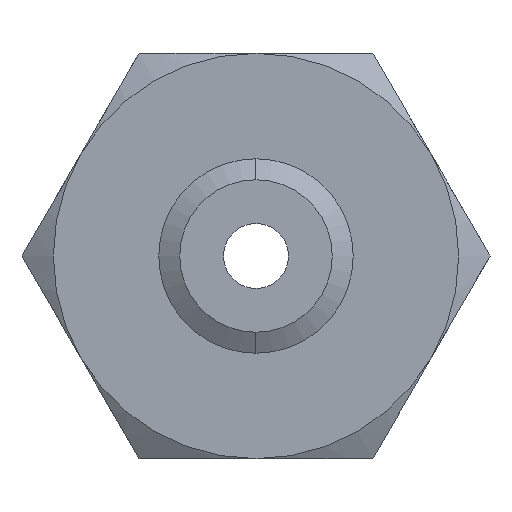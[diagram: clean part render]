
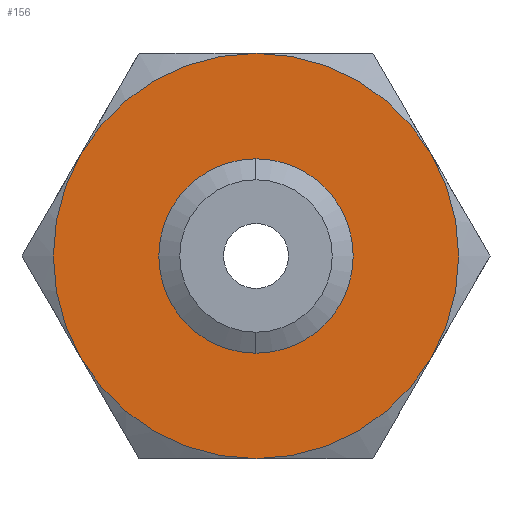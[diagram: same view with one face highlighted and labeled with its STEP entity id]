
A CAD part, front view. The second image highlights one B-rep face of the part: STEP entity #156.
In plain terms, the highlighted planar face has unit normal (0, -1, 0).
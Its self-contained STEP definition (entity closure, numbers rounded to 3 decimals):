
#156 = ADVANCED_FACE ( 'NONE', ( #1119, #1118 ), #1117, .F. ) ;
#157 = EDGE_LOOP ( 'NONE', ( #168, #172, #175, #178, #181, #192 ) ) ;
#168 = ORIENTED_EDGE ( 'NONE', *, *, #169, .F. ) ;
#169 = EDGE_CURVE ( 'NONE', #170, #171, #1096, .T. ) ;
#170 = VERTEX_POINT ( 'NONE', #1097 ) ;
#171 = VERTEX_POINT ( 'NONE', #1091 ) ;
#172 = ORIENTED_EDGE ( 'NONE', *, *, #173, .F. ) ;
#173 = EDGE_CURVE ( 'NONE', #174, #170, #1153, .T. ) ;
#174 = VERTEX_POINT ( 'NONE', #1090 ) ;
#175 = ORIENTED_EDGE ( 'NONE', *, *, #176, .F. ) ;
#176 = EDGE_CURVE ( 'NONE', #177, #174, #1148, .T. ) ;
#177 = VERTEX_POINT ( 'NONE', #1143 ) ;
#178 = ORIENTED_EDGE ( 'NONE', *, *, #179, .F. ) ;
#179 = EDGE_CURVE ( 'NONE', #180, #177, #1142, .T. ) ;
#180 = VERTEX_POINT ( 'NONE', #1137 ) ;
#181 = ORIENTED_EDGE ( 'NONE', *, *, #191, .F. ) ;
#182 = VERTEX_POINT ( 'NONE', #1136 ) ;
#191 = EDGE_CURVE ( 'NONE', #182, #180, #1120, .T. ) ;
#192 = ORIENTED_EDGE ( 'NONE', *, *, #193, .F. ) ;
#193 = EDGE_CURVE ( 'NONE', #171, #182, #1179, .T. ) ;
#194 = EDGE_LOOP ( 'NONE', ( #195, #196 ) ) ;
#195 = ORIENTED_EDGE ( 'NONE', *, *, #2037, .F. ) ;
#196 = ORIENTED_EDGE ( 'NONE', *, *, #197, .F. ) ;
#197 = EDGE_CURVE ( 'NONE', #2039, #2038, #1175, .T. ) ;
#1090 = CARTESIAN_POINT ( 'NONE',  ( -21.651, 0., 12.5 ) ) ;
#1091 = CARTESIAN_POINT ( 'NONE',  ( 21.651, 0., 12.5 ) ) ;
#1092 = DIRECTION ( 'NONE',  ( 0., 0., 1. ) ) ;
#1093 = DIRECTION ( 'NONE',  ( 0., 1., 0. ) ) ;
#1094 = CARTESIAN_POINT ( 'NONE',  ( 0., 0., 0. ) ) ;
#1095 = AXIS2_PLACEMENT_3D ( 'NONE', #1094, #1093, #1092 ) ;
#1096 = CIRCLE ( 'NONE', #1095, 25. ) ;
#1097 = CARTESIAN_POINT ( 'NONE',  ( 0., 0., 25. ) ) ;
#1113 = DIRECTION ( 'NONE',  ( 0., 0., 1. ) ) ;
#1114 = DIRECTION ( 'NONE',  ( 0., 1., 0. ) ) ;
#1115 = CARTESIAN_POINT ( 'NONE',  ( 14.434, 0., -25. ) ) ;
#1116 = AXIS2_PLACEMENT_3D ( 'NONE', #1115, #1114, #1113 ) ;
#1117 = PLANE ( 'NONE',  #1116 ) ;
#1118 = FACE_BOUND ( 'NONE', #194, .T. ) ;
#1119 = FACE_OUTER_BOUND ( 'NONE', #157, .T. ) ;
#1120 = CIRCLE ( 'NONE', #1126, 25. ) ;
#1126 = AXIS2_PLACEMENT_3D ( 'NONE', #1182, #1181, #1180 ) ;
#1136 = CARTESIAN_POINT ( 'NONE',  ( 21.651, 0., -12.5 ) ) ;
#1137 = CARTESIAN_POINT ( 'NONE',  ( 0., 0., -25. ) ) ;
#1138 = DIRECTION ( 'NONE',  ( 0., 0., 1. ) ) ;
#1139 = DIRECTION ( 'NONE',  ( 0., 1., 0. ) ) ;
#1140 = CARTESIAN_POINT ( 'NONE',  ( 0., 0., 0. ) ) ;
#1141 = AXIS2_PLACEMENT_3D ( 'NONE', #1140, #1139, #1138 ) ;
#1142 = CIRCLE ( 'NONE', #1141, 25. ) ;
#1143 = CARTESIAN_POINT ( 'NONE',  ( -21.651, 0., -12.5 ) ) ;
#1144 = DIRECTION ( 'NONE',  ( 0., 0., 1. ) ) ;
#1145 = DIRECTION ( 'NONE',  ( 0., 1., 0. ) ) ;
#1146 = CARTESIAN_POINT ( 'NONE',  ( 0., 0., 0. ) ) ;
#1147 = AXIS2_PLACEMENT_3D ( 'NONE', #1146, #1145, #1144 ) ;
#1148 = CIRCLE ( 'NONE', #1147, 25. ) ;
#1149 = DIRECTION ( 'NONE',  ( 0., 0., 1. ) ) ;
#1150 = DIRECTION ( 'NONE',  ( 0., 1., 0. ) ) ;
#1151 = CARTESIAN_POINT ( 'NONE',  ( 0., 0., 0. ) ) ;
#1152 = AXIS2_PLACEMENT_3D ( 'NONE', #1151, #1150, #1149 ) ;
#1153 = CIRCLE ( 'NONE', #1152, 25. ) ;
#1171 = DIRECTION ( 'NONE',  ( 0., 0., -1. ) ) ;
#1172 = DIRECTION ( 'NONE',  ( 0., -1., 0. ) ) ;
#1173 = CARTESIAN_POINT ( 'NONE',  ( 0., 0., 0. ) ) ;
#1174 = AXIS2_PLACEMENT_3D ( 'NONE', #1173, #1172, #1171 ) ;
#1175 = CIRCLE ( 'NONE', #1174, 9.402 ) ;
#1176 = DIRECTION ( 'NONE',  ( 0., 0., 1. ) ) ;
#1177 = DIRECTION ( 'NONE',  ( 0., 1., 0. ) ) ;
#1178 = AXIS2_PLACEMENT_3D ( 'NONE', #1183, #1177, #1176 ) ;
#1179 = CIRCLE ( 'NONE', #1178, 25. ) ;
#1180 = DIRECTION ( 'NONE',  ( 0., 0., 1. ) ) ;
#1181 = DIRECTION ( 'NONE',  ( 0., 1., 0. ) ) ;
#1182 = CARTESIAN_POINT ( 'NONE',  ( 0., 0., 0. ) ) ;
#1183 = CARTESIAN_POINT ( 'NONE',  ( 0., 0., 0. ) ) ;
#1996 = CARTESIAN_POINT ( 'NONE',  ( 0., 0., 9.402 ) ) ;
#1997 = CARTESIAN_POINT ( 'NONE',  ( 0., 0., -9.402 ) ) ;
#1998 = DIRECTION ( 'NONE',  ( 0., 0., -1. ) ) ;
#1999 = DIRECTION ( 'NONE',  ( 0., -1., 0. ) ) ;
#2000 = CARTESIAN_POINT ( 'NONE',  ( 0., 0., 0. ) ) ;
#2001 = AXIS2_PLACEMENT_3D ( 'NONE', #2000, #1999, #1998 ) ;
#2002 = CIRCLE ( 'NONE', #2001, 9.402 ) ;
#2037 = EDGE_CURVE ( 'NONE', #2038, #2039, #2002, .T. ) ;
#2038 = VERTEX_POINT ( 'NONE', #1997 ) ;
#2039 = VERTEX_POINT ( 'NONE', #1996 ) ;
